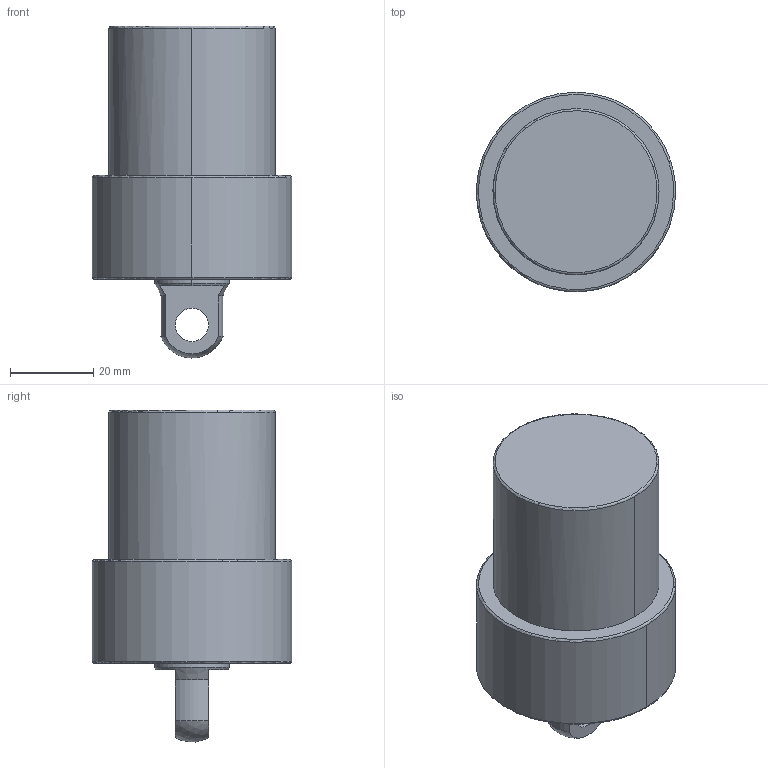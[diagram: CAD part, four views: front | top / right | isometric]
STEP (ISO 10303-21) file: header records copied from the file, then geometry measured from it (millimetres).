
FILE_DESCRIPTION((' '),'2;1');
FILE_NAME( 'TLLU-040GP-025.STEP.stp', '2025-10-24T16:37:15', (' '), ('--- Datakit www.datakit.com---'), ' Datakit CrossCadWare V2024.1 Dec 21 2023', 'Mastercam 2025', ' ');
FILE_SCHEMA(('AUTOMOTIVE_DESIGN { 1 0 10303 214 1 1 1 1 }'));
Length unit declared in the file: millimetre
Products named in the file (1): TLLU-040GP-025
Bounding box: 47.99 x 48 x 79.96 mm (x, y, z)
Volume: 91308.1 mm3; surface area: 13430.9 mm2
Topology: 1 solids, 1 shells, 56 faces, 167 edges, 113 vertices
Faces by surface type: cylinder 22, cone 18, plane 9, torus 6, sphere 1
Entity records: 1952 total; most frequent: DIRECTION 380, CARTESIAN_POINT 341, ORIENTED_EDGE 318, AXIS2_PLACEMENT_3D 168, EDGE_CURVE 159, VERTEX_POINT 113, CIRCLE 111, EDGE_LOOP 66
